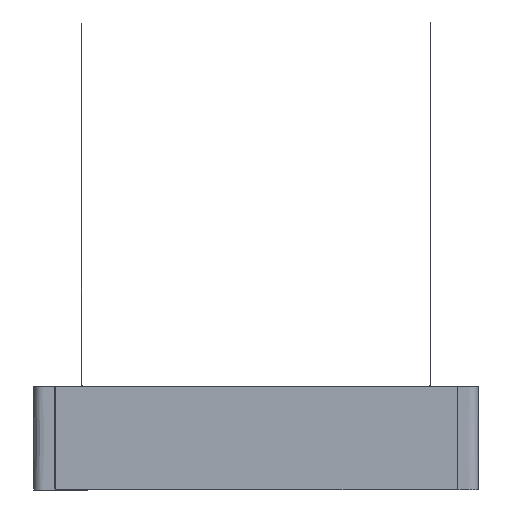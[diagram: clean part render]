
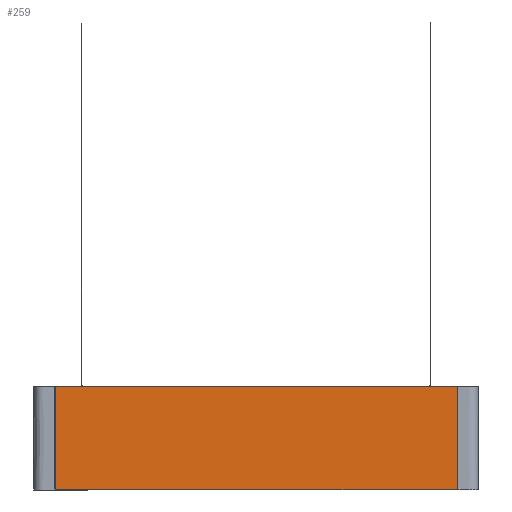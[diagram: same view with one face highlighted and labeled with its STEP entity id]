
A CAD part, front view. The second image highlights one B-rep face of the part: STEP entity #259.
In plain terms, the highlighted planar face has unit normal (0, -1, 0).
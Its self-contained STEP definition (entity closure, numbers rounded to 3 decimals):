
#259=ADVANCED_FACE('',(#526),#4170,.T.);
#526=FACE_OUTER_BOUND('',#797,.T.);
#797=EDGE_LOOP('',(#1665,#1666,#1667,#1668));
#1665=ORIENTED_EDGE('',*,*,#2659,.F.);
#1666=ORIENTED_EDGE('',*,*,#2657,.F.);
#1667=ORIENTED_EDGE('',*,*,#2661,.F.);
#1668=ORIENTED_EDGE('',*,*,#2664,.F.);
#2657=EDGE_CURVE('',#3913,#3914,#3321,.T.);
#2659=EDGE_CURVE('',#3914,#3916,#3323,.T.);
#2661=EDGE_CURVE('',#3915,#3913,#3325,.T.);
#2664=EDGE_CURVE('',#3916,#3915,#3328,.T.);
#3321=B_SPLINE_CURVE_WITH_KNOTS('',1,(#8758,#8759),.UNSPECIFIED.,.F.,.F.,
(2,2),(1167.,1367.),.UNSPECIFIED.);
#3323=B_SPLINE_CURVE_WITH_KNOTS('',1,(#8762,#8763),.UNSPECIFIED.,.F.,.F.,
(2,2),(1367.,2532.),.UNSPECIFIED.);
#3325=B_SPLINE_CURVE_WITH_KNOTS('',1,(#8766,#8767),.UNSPECIFIED.,.F.,.F.,
(2,2),(2.,1167.),.UNSPECIFIED.);
#3328=B_SPLINE_CURVE_WITH_KNOTS('',1,(#8772,#8773),.UNSPECIFIED.,.F.,.F.,
(2,2),(0.,300.),.UNSPECIFIED.);
#3913=VERTEX_POINT('',#7066);
#3914=VERTEX_POINT('',#7067);
#3915=VERTEX_POINT('',#7068);
#3916=VERTEX_POINT('',#7069);
#4170=PLANE('',#4499);
#4499=AXIS2_PLACEMENT_3D('',#6858,#4708,$);
#4708=DIRECTION('',(0.,-1.,0.));
#6858=CARTESIAN_POINT('',(2826.475,382.024,25.739));
#7066=CARTESIAN_POINT('',(3993.475,382.024,325.739));
#7067=CARTESIAN_POINT('',(3993.475,382.024,25.739));
#7068=CARTESIAN_POINT('',(2828.475,382.024,325.739));
#7069=CARTESIAN_POINT('',(2828.475,382.024,25.739));
#8758=CARTESIAN_POINT('',(3993.475,382.024,325.739));
#8759=CARTESIAN_POINT('',(3993.475,382.024,25.739));
#8762=CARTESIAN_POINT('',(3993.475,382.024,25.739));
#8763=CARTESIAN_POINT('',(2828.475,382.024,25.739));
#8766=CARTESIAN_POINT('',(2828.475,382.024,325.739));
#8767=CARTESIAN_POINT('',(3993.475,382.024,325.739));
#8772=CARTESIAN_POINT('',(2828.475,382.024,25.739));
#8773=CARTESIAN_POINT('',(2828.475,382.024,325.739));
